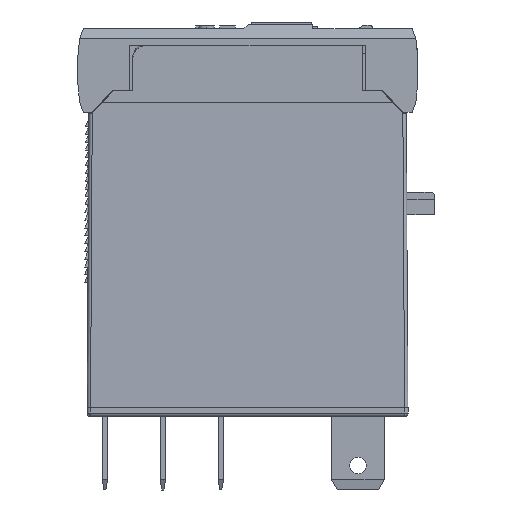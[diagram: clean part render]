
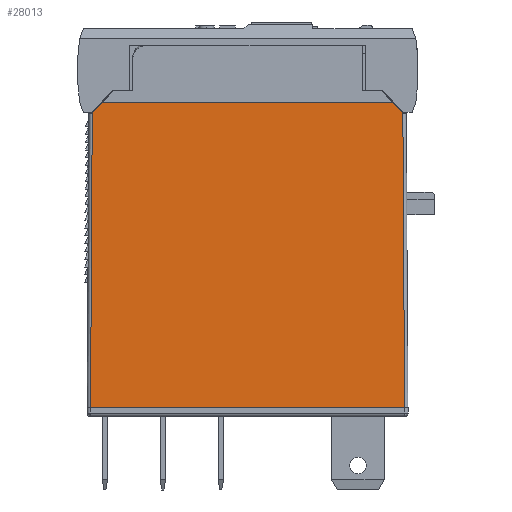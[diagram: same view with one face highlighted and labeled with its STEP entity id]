
A CAD part, left-side view. The second image highlights one B-rep face of the part: STEP entity #28013.
In plain terms, the highlighted planar face has unit normal (-1, 0, 0.006).
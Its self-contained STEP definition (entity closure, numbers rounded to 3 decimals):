
#78 = CARTESIAN_POINT ( 'NONE',  ( 0.01, 2.683, 7.4 ) ) ;
#216 = EDGE_CURVE ( 'NONE', #38357, #34768, #1041, .T. ) ;
#1041 = LINE ( 'NONE', #10167, #39249 ) ;
#1890 = EDGE_CURVE ( 'NONE', #20537, #22276, #9003, .T. ) ;
#2741 = LINE ( 'NONE', #18606, #3665 ) ;
#2835 = CARTESIAN_POINT ( 'NONE',  ( 0.169, 29.803, 34.8 ) ) ;
#3063 = DIRECTION ( 'NONE',  ( 0.006, -0.006, 1. ) ) ;
#3665 = VECTOR ( 'NONE', #11875, 1000. ) ;
#4482 = LINE ( 'NONE', #31078, #30015 ) ;
#6460 = ORIENTED_EDGE ( 'NONE', *, *, #1890, .F. ) ;
#8059 = EDGE_CURVE ( 'NONE', #18175, #22276, #32708, .T. ) ;
#9003 = LINE ( 'NONE', #30241, #33635 ) ;
#9743 = DIRECTION ( 'NONE',  ( -0.006, 0., -1. ) ) ;
#10167 = CARTESIAN_POINT ( 'NONE',  ( 0.164, 2.836, 33.895 ) ) ;
#11676 = DIRECTION ( 'NONE',  ( -0.004, 0.707, -0.707 ) ) ;
#11875 = DIRECTION ( 'NONE',  ( 0., -1., 0. ) ) ;
#12625 = ORIENTED_EDGE ( 'NONE', *, *, #216, .T. ) ;
#13330 = ORIENTED_EDGE ( 'NONE', *, *, #8059, .T. ) ;
#16586 = EDGE_CURVE ( 'NONE', #18175, #34768, #19999, .T. ) ;
#16731 = EDGE_CURVE ( 'NONE', #20537, #27553, #2741, .T. ) ;
#16738 = CARTESIAN_POINT ( 'NONE',  ( 0.01, 30.862, 7.4 ) ) ;
#16913 = ORIENTED_EDGE ( 'NONE', *, *, #22848, .F. ) ;
#18175 = VERTEX_POINT ( 'NONE', #2835 ) ;
#18606 = CARTESIAN_POINT ( 'NONE',  ( 0.01, 31.172, 7.4 ) ) ;
#18639 = CARTESIAN_POINT ( 'NONE',  ( 0.164, 30.708, 33.895 ) ) ;
#18868 = PLANE ( 'NONE',  #33941 ) ;
#19166 = VECTOR ( 'NONE', #11676, 1000. ) ;
#19503 = ORIENTED_EDGE ( 'NONE', *, *, #16586, .F. ) ;
#19959 = CARTESIAN_POINT ( 'NONE',  ( 0.164, 2.836, 33.895 ) ) ;
#19999 = LINE ( 'NONE', #26150, #25226 ) ;
#20537 = VERTEX_POINT ( 'NONE', #16738 ) ;
#22276 = VERTEX_POINT ( 'NONE', #18639 ) ;
#22848 = EDGE_CURVE ( 'NONE', #38357, #27553, #4482, .T. ) ;
#24818 = CARTESIAN_POINT ( 'NONE',  ( 0.1, 16.772, 22.886 ) ) ;
#25131 = DIRECTION ( 'NONE',  ( -0.006, -0.006, -1. ) ) ;
#25226 = VECTOR ( 'NONE', #35466, 1000. ) ;
#26150 = CARTESIAN_POINT ( 'NONE',  ( 0.169, 16.772, 34.8 ) ) ;
#27553 = VERTEX_POINT ( 'NONE', #78 ) ;
#28013 = ADVANCED_FACE ( 'NONE', ( #30386 ), #18868, .F. ) ;
#28415 = DIRECTION ( 'NONE',  ( 0.004, 0.707, 0.707 ) ) ;
#30015 = VECTOR ( 'NONE', #25131, 1000. ) ;
#30241 = CARTESIAN_POINT ( 'NONE',  ( 0.01, 30.862, 7.4 ) ) ;
#30386 = FACE_OUTER_BOUND ( 'NONE', #34998, .T. ) ;
#31078 = CARTESIAN_POINT ( 'NONE',  ( 0.164, 2.836, 33.895 ) ) ;
#32708 = LINE ( 'NONE', #38863, #19166 ) ;
#33635 = VECTOR ( 'NONE', #3063, 1000. ) ;
#33941 = AXIS2_PLACEMENT_3D ( 'NONE', #24818, #36934, #9743 ) ;
#34768 = VERTEX_POINT ( 'NONE', #37511 ) ;
#34998 = EDGE_LOOP ( 'NONE', ( #16913, #12625, #19503, #13330, #6460, #38215 ) ) ;
#35466 = DIRECTION ( 'NONE',  ( 0., -1., 0. ) ) ;
#36934 = DIRECTION ( 'NONE',  ( 1., 0., -0.006 ) ) ;
#37511 = CARTESIAN_POINT ( 'NONE',  ( 0.169, 3.742, 34.8 ) ) ;
#38215 = ORIENTED_EDGE ( 'NONE', *, *, #16731, .T. ) ;
#38357 = VERTEX_POINT ( 'NONE', #19959 ) ;
#38863 = CARTESIAN_POINT ( 'NONE',  ( 0.169, 29.803, 34.8 ) ) ;
#39249 = VECTOR ( 'NONE', #28415, 1000. ) ;
